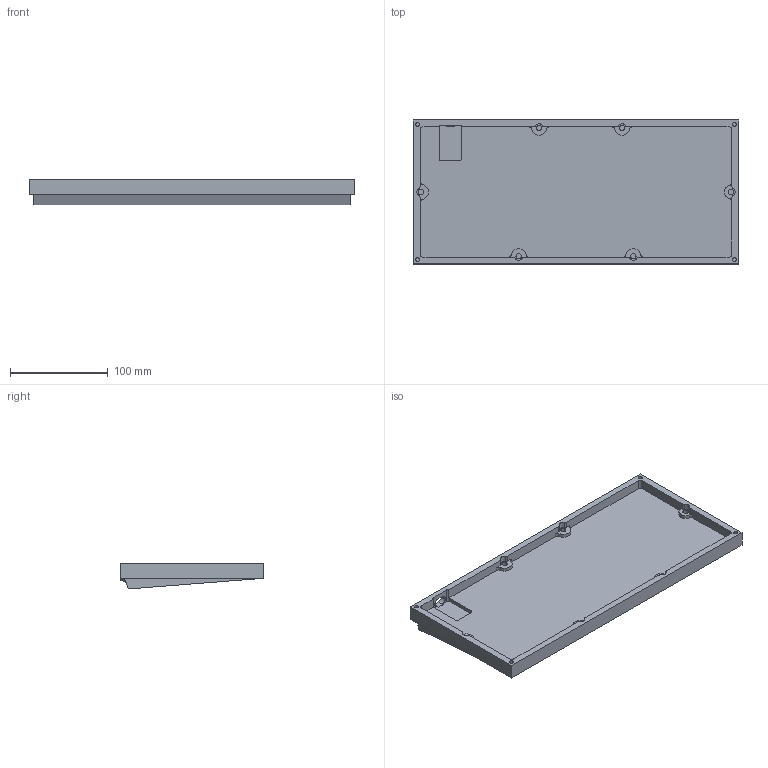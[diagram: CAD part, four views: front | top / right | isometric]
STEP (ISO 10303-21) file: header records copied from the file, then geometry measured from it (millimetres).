
FILE_DESCRIPTION(('HOOPS Exchange Step'),'2;1');
FILE_NAME('/Users/carl/Library/Containers/com.shapr3d.shapr/Data/tmp/export/temp_export','2026-10-19T18:25:26+02:00',('carl'),('Shapr3D Limited'),'HOOPS Exchange 2026.3','Shapr3D','Authorized');
FILE_SCHEMA( ('AP242_MANAGED_MODEL_BASED_3D_ENGINEERING_MIM_LF {1 0 10303 442 1 1 4}') );
Length unit declared in the file: millimetre
Products named in the file (3): USB-C; Slope; Bottom
Assembly tree (2 placements, depth 2):
  Bottom
    USB-C
    Slope
Bounding box: 333.5 x 147.5 x 26.54 mm (x, y, z)
Volume: 586651.2 mm3; surface area: 128428.8 mm2
Topology: 1 solids, 1 shells, 122 faces, 342 edges, 230 vertices
Faces by surface type: cylinder 67, plane 51, sphere 2, bspline 2
Full cylindrical faces by diameter (mm): 4.1 x4, 5.5 x6
Entity records: 4448 total; most frequent: CARTESIAN_POINT 1056, DIRECTION 754, ORIENTED_EDGE 680, EDGE_CURVE 340, AXIS2_PLACEMENT_3D 288, VERTEX_POINT 230, VECTOR 178, LINE 178
